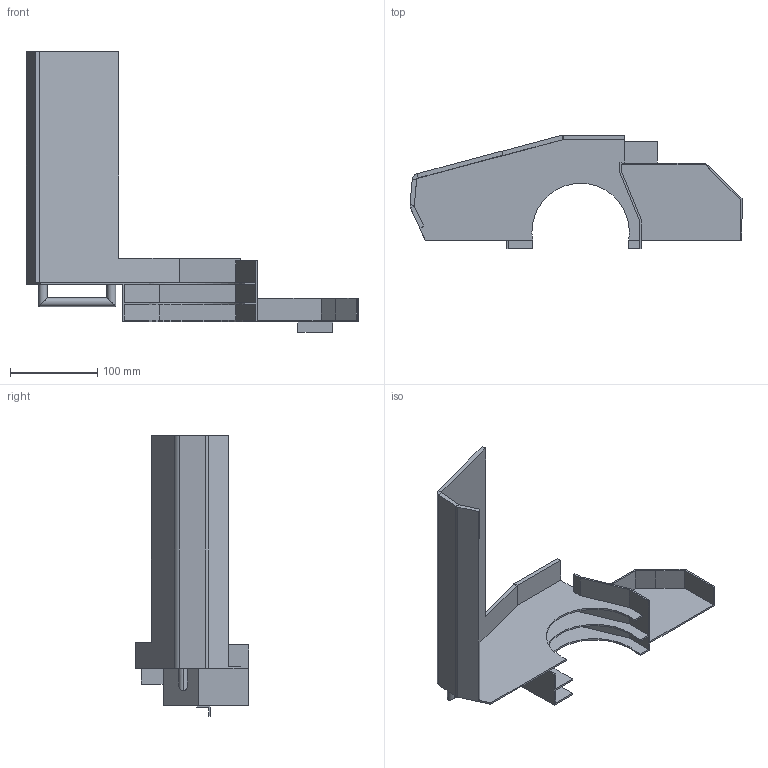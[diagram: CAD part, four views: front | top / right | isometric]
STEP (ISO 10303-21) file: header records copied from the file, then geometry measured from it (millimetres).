
FILE_DESCRIPTION (( 'STEP AP203' ), '1' );
FILE_NAME ('ñáîðêà.STEP', '2025-05-16T11:09:38', ( '' ), ( '' ), 'SwSTEP 2.0', 'SolidWorks 2023', '' );
FILE_SCHEMA (( 'CONFIG_CONTROL_DESIGN' ));
Length unit declared in the file: millimetre
Products named in the file (3): брызговик комби; сборка; вставочка
Assembly tree (2 placements, depth 2):
  сборка
    брызговик комби
    вставочка
Bounding box: 380.59 x 130.38 x 322 mm (x, y, z)
Volume: 376325.9 mm3; surface area: 232848.3 mm2
Topology: 2 solids, 2 shells, 109 faces, 290 edges, 186 vertices
Faces by surface type: plane 88, cylinder 21
Entity records: 3631 total; most frequent: CARTESIAN_POINT 602, ORIENTED_EDGE 580, DIRECTION 548, EDGE_CURVE 290, LINE 252, VECTOR 252, VERTEX_POINT 186, AXIS2_PLACEMENT_3D 148
